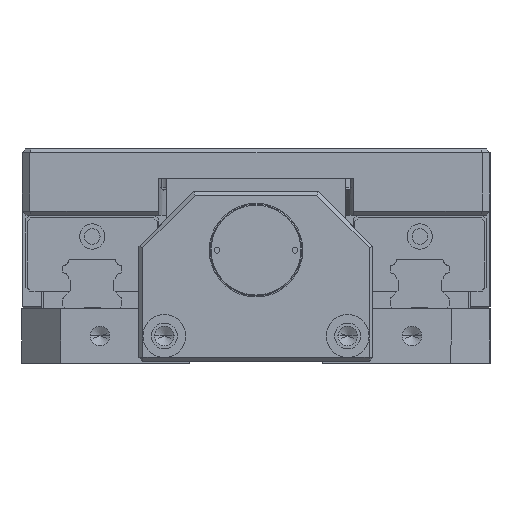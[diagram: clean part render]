
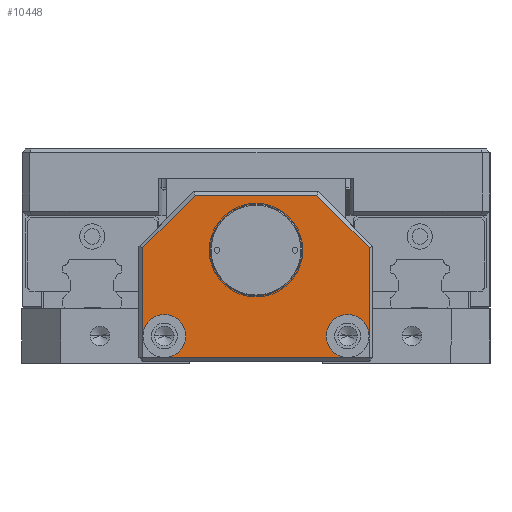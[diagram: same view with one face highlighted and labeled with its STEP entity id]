
A CAD part, left-side view. The second image highlights one B-rep face of the part: STEP entity #10448.
In plain terms, the highlighted planar face has unit normal (-1, 0, 0).
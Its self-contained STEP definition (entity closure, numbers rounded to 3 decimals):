
#236 = CARTESIAN_POINT ( 'NONE',  ( -142., 23.5, 1.5 ) ) ;
#369 = VERTEX_POINT ( 'NONE', #60259 ) ;
#940 = EDGE_CURVE ( 'NONE', #75070, #90747, #29422, .T. ) ;
#1530 = CARTESIAN_POINT ( 'NONE',  ( -142., 29., 7. ) ) ;
#2163 = EDGE_LOOP ( 'NONE', ( #22135, #2262 ) ) ;
#2262 = ORIENTED_EDGE ( 'NONE', *, *, #77853, .F. ) ;
#4207 = CARTESIAN_POINT ( 'NONE',  ( -142., -23.5, 1.5 ) ) ;
#5009 = VERTEX_POINT ( 'NONE', #70673 ) ;
#6664 = CIRCLE ( 'NONE', #17255, 5.5 ) ;
#6865 = DIRECTION ( 'NONE',  ( 0., 0., 1. ) ) ;
#7848 = EDGE_CURVE ( 'NONE', #9885, #369, #63941, .T. ) ;
#8621 = CARTESIAN_POINT ( 'NONE',  ( -142., -15.586, 43. ) ) ;
#9206 = EDGE_CURVE ( 'NONE', #64408, #49211, #31597, .T. ) ;
#9721 = DIRECTION ( 'NONE',  ( 0., 0., 1. ) ) ;
#9885 = VERTEX_POINT ( 'NONE', #89789 ) ;
#9935 = DIRECTION ( 'NONE',  ( 1., 0., 0. ) ) ;
#10045 = ORIENTED_EDGE ( 'NONE', *, *, #86303, .F. ) ;
#10217 = VECTOR ( 'NONE', #81011, 1000. ) ;
#10432 = FACE_OUTER_BOUND ( 'NONE', #22858, .T. ) ;
#10448 = ADVANCED_FACE ( 'NONE', ( #79534, #10432 ), #16275, .F. ) ;
#10886 = CIRCLE ( 'NONE', #67769, 11.75 ) ;
#11193 = CIRCLE ( 'NONE', #93445, 5.5 ) ;
#11677 = ORIENTED_EDGE ( 'NONE', *, *, #940, .F. ) ;
#12448 = DIRECTION ( 'NONE',  ( -1., 0., 0. ) ) ;
#14140 = CARTESIAN_POINT ( 'NONE',  ( -142., -23.5, 7. ) ) ;
#16129 = DIRECTION ( 'NONE',  ( -1., 0., 0. ) ) ;
#16130 = DIRECTION ( 'NONE',  ( 0., 0., -1. ) ) ;
#16275 = PLANE ( 'NONE',  #65309 ) ;
#17255 = AXIS2_PLACEMENT_3D ( 'NONE', #14140, #70889, #6865 ) ;
#17584 = DIRECTION ( 'NONE',  ( 0., -1., 0. ) ) ;
#17897 = CARTESIAN_POINT ( 'NONE',  ( -142., 0., 43. ) ) ;
#21763 = LINE ( 'NONE', #83181, #27518 ) ;
#22135 = ORIENTED_EDGE ( 'NONE', *, *, #7848, .F. ) ;
#22858 = EDGE_LOOP ( 'NONE', ( #40048, #50246, #48351, #10045, #11677, #23687, #40523, #84161, #74370, #66943 ) ) ;
#23687 = ORIENTED_EDGE ( 'NONE', *, *, #90682, .F. ) ;
#23898 = DIRECTION ( 'NONE',  ( -1., 0., 0. ) ) ;
#26220 = VECTOR ( 'NONE', #32212, 1000. ) ;
#27320 = LINE ( 'NONE', #52847, #26220 ) ;
#27518 = VECTOR ( 'NONE', #60133, 1000. ) ;
#28003 = VECTOR ( 'NONE', #59773, 1000. ) ;
#28838 = DIRECTION ( 'NONE',  ( 0., 0., 1. ) ) ;
#28980 = VERTEX_POINT ( 'NONE', #236 ) ;
#29216 = CARTESIAN_POINT ( 'NONE',  ( -142., 23.5, 12.5 ) ) ;
#29320 = AXIS2_PLACEMENT_3D ( 'NONE', #50394, #36119, #28838 ) ;
#29422 = LINE ( 'NONE', #81330, #10217 ) ;
#30652 = DIRECTION ( 'NONE',  ( 0., 0., -1. ) ) ;
#31597 = CIRCLE ( 'NONE', #29320, 5.5 ) ;
#32212 = DIRECTION ( 'NONE',  ( 0., -0.707, 0.707 ) ) ;
#33255 = EDGE_CURVE ( 'NONE', #28980, #91016, #11193, .T. ) ;
#35519 = CIRCLE ( 'NONE', #58139, 5.5 ) ;
#36119 = DIRECTION ( 'NONE',  ( -1., 0., 0. ) ) ;
#37746 = EDGE_CURVE ( 'NONE', #91016, #83543, #35519, .T. ) ;
#38557 = CARTESIAN_POINT ( 'NONE',  ( -142., 0., 1.5 ) ) ;
#39088 = DIRECTION ( 'NONE',  ( 0., 1., 0. ) ) ;
#39545 = CARTESIAN_POINT ( 'NONE',  ( -142., 15.586, 43. ) ) ;
#40048 = ORIENTED_EDGE ( 'NONE', *, *, #90587, .F. ) ;
#40523 = ORIENTED_EDGE ( 'NONE', *, *, #74108, .F. ) ;
#41037 = VERTEX_POINT ( 'NONE', #39545 ) ;
#46147 = DIRECTION ( 'NONE',  ( -1., 0., 0. ) ) ;
#48351 = ORIENTED_EDGE ( 'NONE', *, *, #69718, .F. ) ;
#49160 = CARTESIAN_POINT ( 'NONE',  ( -142., 23.5, 7. ) ) ;
#49211 = VERTEX_POINT ( 'NONE', #4207 ) ;
#50246 = ORIENTED_EDGE ( 'NONE', *, *, #9206, .F. ) ;
#50394 = CARTESIAN_POINT ( 'NONE',  ( -142., -23.5, 7. ) ) ;
#52847 = CARTESIAN_POINT ( 'NONE',  ( -142., 15.209, 43.377 ) ) ;
#53047 = LINE ( 'NONE', #17897, #85810 ) ;
#56150 = DIRECTION ( 'NONE',  ( 0., 0., 1. ) ) ;
#58139 = AXIS2_PLACEMENT_3D ( 'NONE', #49160, #12448, #56150 ) ;
#58670 = LINE ( 'NONE', #81363, #86971 ) ;
#59545 = CARTESIAN_POINT ( 'NONE',  ( -142., 0., 29. ) ) ;
#59733 = EDGE_CURVE ( 'NONE', #83543, #5009, #21763, .T. ) ;
#59773 = DIRECTION ( 'NONE',  ( 0., 1., 0. ) ) ;
#60133 = DIRECTION ( 'NONE',  ( 0., 0., 1. ) ) ;
#60259 = CARTESIAN_POINT ( 'NONE',  ( -142., 0., 40.75 ) ) ;
#62116 = CARTESIAN_POINT ( 'NONE',  ( -142., -29., 7. ) ) ;
#63902 = VERTEX_POINT ( 'NONE', #62116 ) ;
#63941 = CIRCLE ( 'NONE', #69892, 11.75 ) ;
#64408 = VERTEX_POINT ( 'NONE', #74043 ) ;
#65309 = AXIS2_PLACEMENT_3D ( 'NONE', #74254, #9935, #39088 ) ;
#66943 = ORIENTED_EDGE ( 'NONE', *, *, #33255, .F. ) ;
#67769 = AXIS2_PLACEMENT_3D ( 'NONE', #59545, #16129, #30652 ) ;
#67977 = CARTESIAN_POINT ( 'NONE',  ( -142., 0., 29. ) ) ;
#67997 = CARTESIAN_POINT ( 'NONE',  ( -142., 23.5, 7. ) ) ;
#68897 = LINE ( 'NONE', #38557, #28003 ) ;
#69718 = EDGE_CURVE ( 'NONE', #63902, #64408, #6664, .T. ) ;
#69892 = AXIS2_PLACEMENT_3D ( 'NONE', #67977, #23898, #88829 ) ;
#70673 = CARTESIAN_POINT ( 'NONE',  ( -142., 29., 29.586 ) ) ;
#70889 = DIRECTION ( 'NONE',  ( -1., 0., 0. ) ) ;
#74043 = CARTESIAN_POINT ( 'NONE',  ( -142., -23.5, 12.5 ) ) ;
#74108 = EDGE_CURVE ( 'NONE', #5009, #41037, #27320, .T. ) ;
#74254 = CARTESIAN_POINT ( 'NONE',  ( -142., -29., 1.5 ) ) ;
#74370 = ORIENTED_EDGE ( 'NONE', *, *, #37746, .F. ) ;
#75070 = VERTEX_POINT ( 'NONE', #8621 ) ;
#77853 = EDGE_CURVE ( 'NONE', #369, #9885, #10886, .T. ) ;
#79534 = FACE_BOUND ( 'NONE', #2163, .T. ) ;
#81011 = DIRECTION ( 'NONE',  ( 0., -0.707, -0.707 ) ) ;
#81330 = CARTESIAN_POINT ( 'NONE',  ( -142., -29.377, 29.209 ) ) ;
#81363 = CARTESIAN_POINT ( 'NONE',  ( -142., -29., 22.25 ) ) ;
#83181 = CARTESIAN_POINT ( 'NONE',  ( -142., 29., 22.25 ) ) ;
#83543 = VERTEX_POINT ( 'NONE', #1530 ) ;
#84161 = ORIENTED_EDGE ( 'NONE', *, *, #59733, .F. ) ;
#85810 = VECTOR ( 'NONE', #17584, 1000. ) ;
#86303 = EDGE_CURVE ( 'NONE', #90747, #63902, #58670, .T. ) ;
#86971 = VECTOR ( 'NONE', #16130, 1000. ) ;
#88829 = DIRECTION ( 'NONE',  ( 0., 0., -1. ) ) ;
#89789 = CARTESIAN_POINT ( 'NONE',  ( -142., 0., 17.25 ) ) ;
#90587 = EDGE_CURVE ( 'NONE', #49211, #28980, #68897, .T. ) ;
#90682 = EDGE_CURVE ( 'NONE', #41037, #75070, #53047, .T. ) ;
#90747 = VERTEX_POINT ( 'NONE', #91675 ) ;
#91016 = VERTEX_POINT ( 'NONE', #29216 ) ;
#91675 = CARTESIAN_POINT ( 'NONE',  ( -142., -29., 29.586 ) ) ;
#93445 = AXIS2_PLACEMENT_3D ( 'NONE', #67997, #46147, #9721 ) ;
